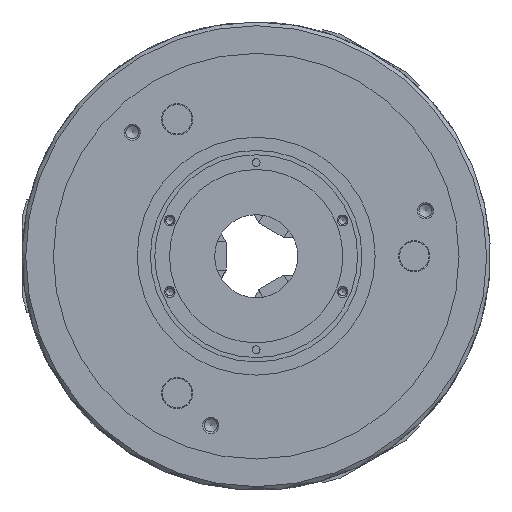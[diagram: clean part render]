
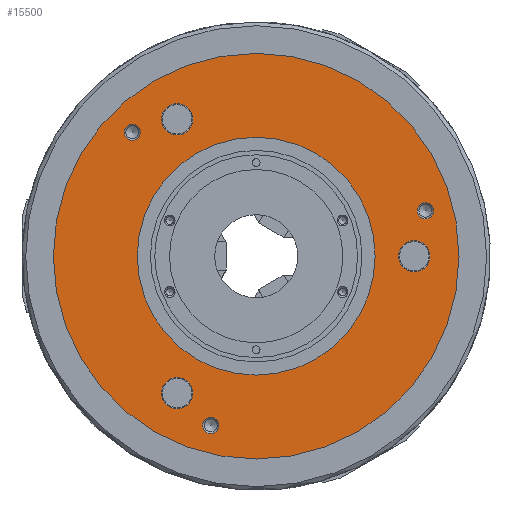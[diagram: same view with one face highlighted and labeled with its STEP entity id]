
A CAD part, left-side view. The second image highlights one B-rep face of the part: STEP entity #15500.
In plain terms, the highlighted planar face has unit normal (-1, 0, 0).
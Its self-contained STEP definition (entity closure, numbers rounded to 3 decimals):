
#3843 = VERTEX_POINT ( 'NONE', #49582 ) ;
#3913 = ORIENTED_EDGE ( 'NONE', *, *, #64505, .F. ) ;
#5362 = ORIENTED_EDGE ( 'NONE', *, *, #29687, .F. ) ;
#5650 = DIRECTION ( 'NONE',  ( -1., 0., 0. ) ) ;
#6094 = DIRECTION ( 'NONE',  ( 0., 0., 1. ) ) ;
#6685 = CIRCLE ( 'NONE', #30490, 4.4 ) ;
#6740 = EDGE_LOOP ( 'NONE', ( #15618 ) ) ;
#8771 = DIRECTION ( 'NONE',  ( -1., 0., 0. ) ) ;
#8831 = DIRECTION ( 'NONE',  ( 1., 0., 0. ) ) ;
#9509 = AXIS2_PLACEMENT_3D ( 'NONE', #63862, #42554, #47635 ) ;
#10054 = DIRECTION ( 'NONE',  ( -1., 0., 0. ) ) ;
#12972 = EDGE_LOOP ( 'NONE', ( #45509 ) ) ;
#13312 = DIRECTION ( 'NONE',  ( 0., 0., 1. ) ) ;
#13346 = ORIENTED_EDGE ( 'NONE', *, *, #26166, .T. ) ;
#13540 = EDGE_LOOP ( 'NONE', ( #20897 ) ) ;
#13697 = VERTEX_POINT ( 'NONE', #27343 ) ;
#13971 = EDGE_LOOP ( 'NONE', ( #5362 ) ) ;
#15500 = ADVANCED_FACE ( 'NONE', ( #48554, #63334, #37085, #62485, #46132, #23153, #32145, #18225 ), #16225, .T. ) ;
#15618 = ORIENTED_EDGE ( 'NONE', *, *, #31518, .F. ) ;
#16145 = CARTESIAN_POINT ( 'NONE',  ( -98., 67.175, 67.175 ) ) ;
#16225 = PLANE ( 'NONE',  #9509 ) ;
#16961 = VERTEX_POINT ( 'NONE', #21862 ) ;
#17668 = CIRCLE ( 'NONE', #42671, 64.5 ) ;
#18185 = CARTESIAN_POINT ( 'NONE',  ( -98., -91.763, 28.988 ) ) ;
#18225 = FACE_OUTER_BOUND ( 'NONE', #13540, .T. ) ;
#19363 = VERTEX_POINT ( 'NONE', #18185 ) ;
#20897 = ORIENTED_EDGE ( 'NONE', *, *, #60857, .F. ) ;
#21862 = CARTESIAN_POINT ( 'NONE',  ( -98., 42.863, -65.74 ) ) ;
#21877 = EDGE_CURVE ( 'NONE', #26014, #26014, #45344, .T. ) ;
#22370 = AXIS2_PLACEMENT_3D ( 'NONE', #64981, #28289, #48508 ) ;
#23153 = FACE_BOUND ( 'NONE', #34683, .T. ) ;
#24563 = CIRCLE ( 'NONE', #52024, 8.5 ) ;
#26014 = VERTEX_POINT ( 'NONE', #48460 ) ;
#26166 = EDGE_CURVE ( 'NONE', #50626, #50626, #17668, .T. ) ;
#26885 = CARTESIAN_POINT ( 'NONE',  ( -98., -85.725, 8.5 ) ) ;
#27343 = CARTESIAN_POINT ( 'NONE',  ( -98., 42.863, 82.74 ) ) ;
#27514 = VERTEX_POINT ( 'NONE', #54622 ) ;
#28289 = DIRECTION ( 'NONE',  ( -1., 0., 0. ) ) ;
#28731 = DIRECTION ( 'NONE',  ( 0., 0., 1. ) ) ;
#29599 = CARTESIAN_POINT ( 'NONE',  ( -98., 0., 0. ) ) ;
#29687 = EDGE_CURVE ( 'NONE', #58771, #58771, #24563, .T. ) ;
#30490 = AXIS2_PLACEMENT_3D ( 'NONE', #41384, #10054, #62457 ) ;
#31518 = EDGE_CURVE ( 'NONE', #13697, #13697, #55453, .T. ) ;
#32145 = FACE_BOUND ( 'NONE', #33498, .T. ) ;
#33498 = EDGE_LOOP ( 'NONE', ( #13346 ) ) ;
#33651 = DIRECTION ( 'NONE',  ( -1., 0., 0. ) ) ;
#34140 = CARTESIAN_POINT ( 'NONE',  ( -98., 0., 0. ) ) ;
#34683 = EDGE_LOOP ( 'NONE', ( #61371 ) ) ;
#35643 = EDGE_CURVE ( 'NONE', #16961, #16961, #44212, .T. ) ;
#37085 = FACE_BOUND ( 'NONE', #67028, .T. ) ;
#38681 = ORIENTED_EDGE ( 'NONE', *, *, #21877, .F. ) ;
#39207 = DIRECTION ( 'NONE',  ( 1., 0., 0. ) ) ;
#39670 = CARTESIAN_POINT ( 'NONE',  ( -98., 42.863, 74.24 ) ) ;
#41231 = AXIS2_PLACEMENT_3D ( 'NONE', #49824, #60602, #28731 ) ;
#41384 = CARTESIAN_POINT ( 'NONE',  ( -98., -91.763, 24.588 ) ) ;
#41541 = AXIS2_PLACEMENT_3D ( 'NONE', #29599, #8831, #66263 ) ;
#42554 = DIRECTION ( 'NONE',  ( -1., 0., 0. ) ) ;
#42671 = AXIS2_PLACEMENT_3D ( 'NONE', #34140, #39207, #44938 ) ;
#42717 = CARTESIAN_POINT ( 'NONE',  ( -98., 0., -64.5 ) ) ;
#44212 = CIRCLE ( 'NONE', #22370, 8.5 ) ;
#44938 = DIRECTION ( 'NONE',  ( 0., 0., -1. ) ) ;
#45344 = CIRCLE ( 'NONE', #45711, 4.4 ) ;
#45509 = ORIENTED_EDGE ( 'NONE', *, *, #59116, .F. ) ;
#45711 = AXIS2_PLACEMENT_3D ( 'NONE', #16145, #5650, #6094 ) ;
#46132 = FACE_BOUND ( 'NONE', #13971, .T. ) ;
#47635 = DIRECTION ( 'NONE',  ( 0., 0., 1. ) ) ;
#48460 = CARTESIAN_POINT ( 'NONE',  ( -98., 67.175, 71.575 ) ) ;
#48508 = DIRECTION ( 'NONE',  ( 0., 0., 1. ) ) ;
#48554 = FACE_BOUND ( 'NONE', #60413, .T. ) ;
#48981 = AXIS2_PLACEMENT_3D ( 'NONE', #39670, #8771, #50186 ) ;
#49582 = CARTESIAN_POINT ( 'NONE',  ( -98., 24.588, -87.363 ) ) ;
#49824 = CARTESIAN_POINT ( 'NONE',  ( -98., 24.588, -91.763 ) ) ;
#50186 = DIRECTION ( 'NONE',  ( 0., 0., 1. ) ) ;
#50626 = VERTEX_POINT ( 'NONE', #42717 ) ;
#52024 = AXIS2_PLACEMENT_3D ( 'NONE', #54764, #33651, #13312 ) ;
#54622 = CARTESIAN_POINT ( 'NONE',  ( -98., 0., -110. ) ) ;
#54764 = CARTESIAN_POINT ( 'NONE',  ( -98., -85.725, 0. ) ) ;
#55453 = CIRCLE ( 'NONE', #48981, 8.5 ) ;
#58771 = VERTEX_POINT ( 'NONE', #26885 ) ;
#59116 = EDGE_CURVE ( 'NONE', #19363, #19363, #6685, .T. ) ;
#60413 = EDGE_LOOP ( 'NONE', ( #38681 ) ) ;
#60602 = DIRECTION ( 'NONE',  ( -1., 0., 0. ) ) ;
#60857 = EDGE_CURVE ( 'NONE', #27514, #27514, #66128, .T. ) ;
#61371 = ORIENTED_EDGE ( 'NONE', *, *, #35643, .F. ) ;
#62457 = DIRECTION ( 'NONE',  ( 0., 0., 1. ) ) ;
#62485 = FACE_BOUND ( 'NONE', #6740, .T. ) ;
#63334 = FACE_BOUND ( 'NONE', #12972, .T. ) ;
#63862 = CARTESIAN_POINT ( 'NONE',  ( -98., 110., 0. ) ) ;
#64505 = EDGE_CURVE ( 'NONE', #3843, #3843, #65062, .T. ) ;
#64981 = CARTESIAN_POINT ( 'NONE',  ( -98., 42.863, -74.24 ) ) ;
#65062 = CIRCLE ( 'NONE', #41231, 4.4 ) ;
#66128 = CIRCLE ( 'NONE', #41541, 110. ) ;
#66263 = DIRECTION ( 'NONE',  ( 0., 0., -1. ) ) ;
#67028 = EDGE_LOOP ( 'NONE', ( #3913 ) ) ;
